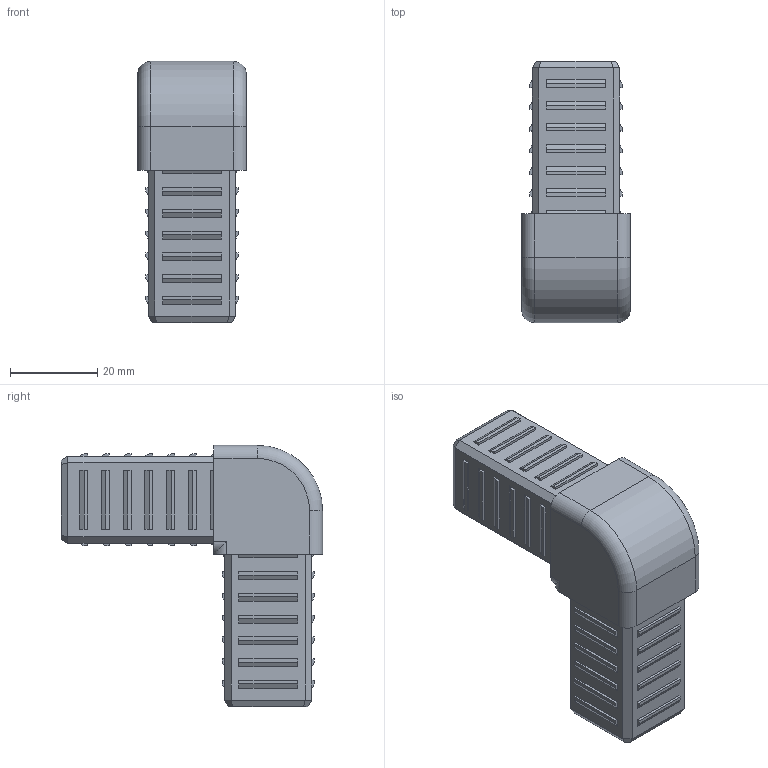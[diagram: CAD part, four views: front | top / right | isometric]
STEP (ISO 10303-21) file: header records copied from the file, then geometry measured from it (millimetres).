
FILE_DESCRIPTION (( 'STEP AP203' ), '1' );
FILE_NAME ('013.025.113.STEP', '2020-09-21T06:57:56', ( '' ), ( '' ), 'SwSTEP 2.0', 'SolidWorks 2018', '' );
FILE_SCHEMA (( 'CONFIG_CONTROL_DESIGN' ));
Length unit declared in the file: millimetre
Products named in the file (1): 013.025.113
Bounding box: 25 x 60 x 60 mm (x, y, z)
Volume: 22778.8 mm3; surface area: 18178.9 mm2
Topology: 1 solids, 1 shells, 376 faces, 941 edges, 618 vertices
Faces by surface type: plane 343, cylinder 27, torus 6
Entity records: 11088 total; most frequent: CARTESIAN_POINT 1974, ORIENTED_EDGE 1882, DIRECTION 1735, EDGE_CURVE 941, VECTOR 881, LINE 881, VERTEX_POINT 618, EDGE_LOOP 431
